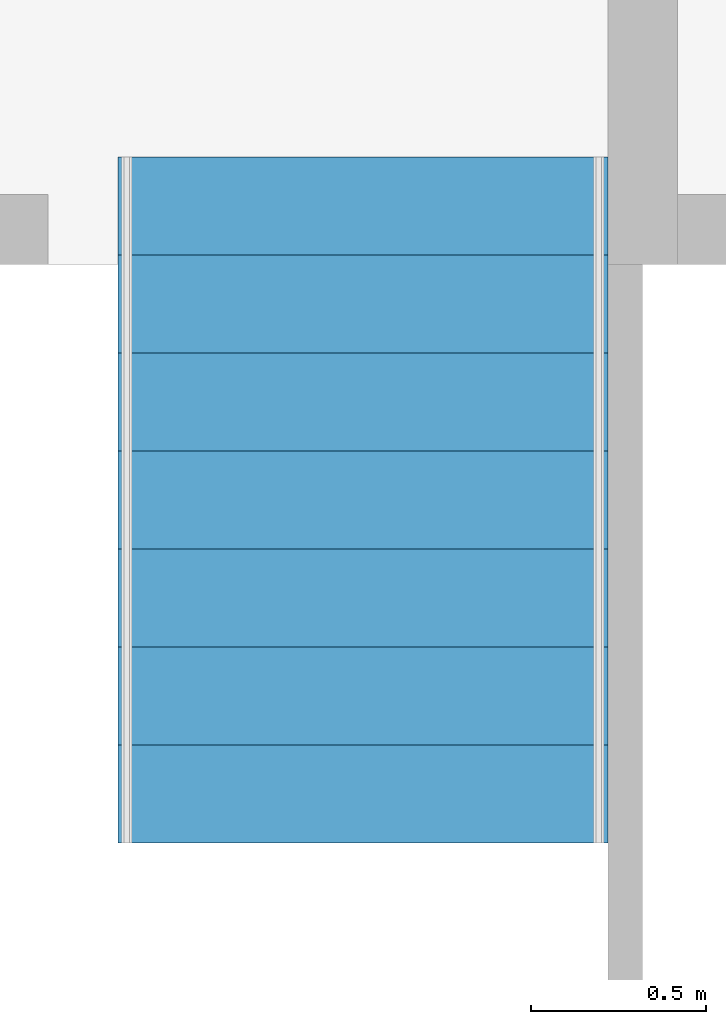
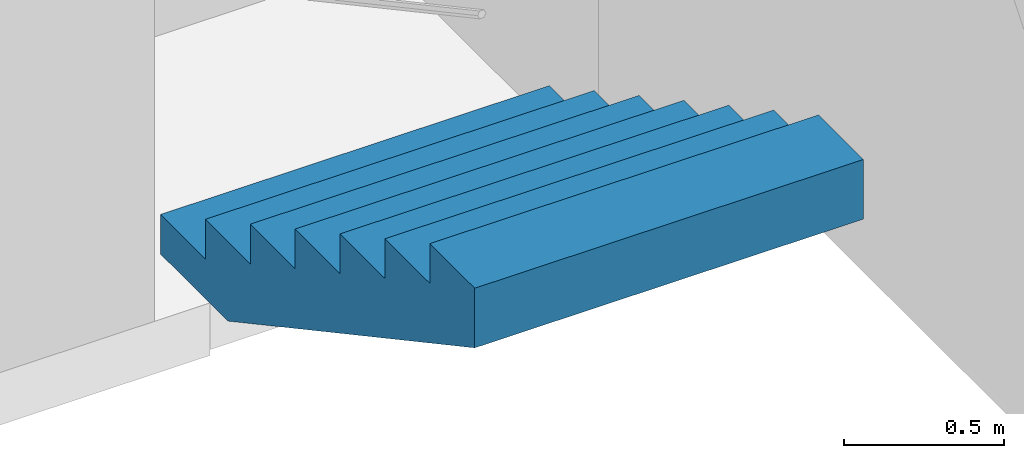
# One storey, part 2 of 3: 1 stair flight, 1 element without a shape of its own.
"""IFC2X3 building model written with IfcOpenShell, lengths in metres."""

from ifc_helpers import new_model, entity, si_unit, converted_unit, derived_unit, direction, frame, origin, place, context, subcontext, project, spatial, faceted_brep, material, type_object, element, aggregate, save


model = new_model("IFC2X3")

# Units and contexts
model_context = context("Model", 3, precision=1e-05, world=origin(), true_north=direction((6.12303176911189e-17, 1.0)))
body_context = subcontext(model_context, "Body", "Model", "MODEL_VIEW")
ifc_project = project(units=[si_unit("LENGTHUNIT", "METRE"), si_unit("AREAUNIT", "SQUARE_METRE"), si_unit("VOLUMEUNIT", "CUBIC_METRE"), converted_unit("PLANEANGLEUNIT", "DEGREE", entity("IfcRatioMeasure", 0.0174532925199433), si_unit("PLANEANGLEUNIT", "RADIAN"), dimensions=[0, 0, 0, 0, 0, 0, 0]), si_unit("MASSUNIT", "GRAM", prefix="KILO"), derived_unit("MASSDENSITYUNIT", [(si_unit("MASSUNIT", "GRAM", prefix="KILO"), 1), (si_unit("LENGTHUNIT", "METRE"), -3)]), derived_unit("MOMENTOFINERTIAUNIT", [(si_unit("LENGTHUNIT", "METRE"), 4)]), si_unit("TIMEUNIT", "SECOND"), si_unit("FREQUENCYUNIT", "HERTZ"), si_unit("THERMODYNAMICTEMPERATUREUNIT", "DEGREE_CELSIUS"), derived_unit("THERMALTRANSMITTANCEUNIT", [(si_unit("MASSUNIT", "GRAM", prefix="KILO"), 1), (si_unit("THERMODYNAMICTEMPERATUREUNIT", "KELVIN"), -1), (si_unit("TIMEUNIT", "SECOND"), -3)]), derived_unit("VOLUMETRICFLOWRATEUNIT", [(si_unit("LENGTHUNIT", "METRE"), 3), (si_unit("TIMEUNIT", "SECOND"), -1)]), si_unit("ELECTRICCURRENTUNIT", "AMPERE"), si_unit("ELECTRICVOLTAGEUNIT", "VOLT"), si_unit("POWERUNIT", "WATT"), si_unit("FORCEUNIT", "NEWTON", prefix="KILO"), si_unit("ILLUMINANCEUNIT", "LUX"), si_unit("LUMINOUSFLUXUNIT", "LUMEN"), si_unit("LUMINOUSINTENSITYUNIT", "CANDELA"), derived_unit("USERDEFINED", [(si_unit("MASSUNIT", "GRAM", prefix="KILO"), -1), (si_unit("LENGTHUNIT", "METRE"), -2), (si_unit("TIMEUNIT", "SECOND"), 3), (si_unit("LUMINOUSFLUXUNIT", "LUMEN"), 1)]), derived_unit("LINEARVELOCITYUNIT", [(si_unit("LENGTHUNIT", "METRE"), 1), (si_unit("TIMEUNIT", "SECOND"), -1)]), si_unit("PRESSUREUNIT", "PASCAL"), derived_unit("USERDEFINED", [(si_unit("LENGTHUNIT", "METRE"), -2), (si_unit("MASSUNIT", "GRAM", prefix="KILO"), 1), (si_unit("TIMEUNIT", "SECOND"), -2)]), derived_unit("LINEARFORCEUNIT", [(si_unit("MASSUNIT", "GRAM", prefix="KILO"), 1), (si_unit("LENGTHUNIT", "METRE"), 1), (si_unit("TIMEUNIT", "SECOND"), -2), (si_unit("LENGTHUNIT", "METRE"), -1)]), derived_unit("PLANARFORCEUNIT", [(si_unit("MASSUNIT", "GRAM", prefix="KILO"), 1), (si_unit("LENGTHUNIT", "METRE"), 1), (si_unit("TIMEUNIT", "SECOND"), -2), (si_unit("LENGTHUNIT", "METRE"), -2)])], contexts=[model_context])

# Site, building, storey
site_placement = place(None, origin())
site = spatial("IfcSite", under=ifc_project, at=site_placement, Name="Default", CompositionType="ELEMENT")
building_placement = place(site_placement, origin())
building = spatial("IfcBuilding", under=site, at=building_placement, CompositionType="ELEMENT")
storey_placement = place(building_placement, frame((0.0, 0.0, -0.31669172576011)))
storey = spatial("IfcBuildingStorey", under=building, at=storey_placement, Name="SOUS SOL", CompositionType="ELEMENT", Elevation=-0.31669172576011)

# Stair, stair flight
stair_placement = place(storey_placement, origin())
stair = element("IfcStair", 1, at=stair_placement, inside=storey, Name="Escalier coulé sur place:Escalier", ObjectType="Escalier coulé sur place:Escalier monobloc", ShapeType="STRAIGHT_RUN_STAIR")
ifc_material = material(Name="Béton, coulé sur place")
stair_flight_type = type_object("IfcStairFlightType", Name="Volée monobloc:Profondeur de structure 200 mm", PredefinedType="NOTDEFINED")
stair_flight_placement = place(stair_placement, frame((-18.7440938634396, 14.0661770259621, 0.0)))
stair_flight = element("IfcStairFlight", 2, at=stair_flight_placement, type_object=stair_flight_type, material=ifc_material, Name="Escalier coulé sur place:Escalier:973949 Run 1", ObjectType="Volée monobloc:Profondeur de structure 200 mm", NumberOfRiser=8, NumberOfTreads=7, RiserHeight=0.496227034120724, TreadLength=0.918635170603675, context=body_context, shape_type="Brep", body=[
    faceted_brep([(1.40000000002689, 1.67999999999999, 0.151250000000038), (1.40000000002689, 1.95999999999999, 0.151250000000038), (0.0, 1.95999999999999, 0.151250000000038), (0.0, 1.67999999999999, 0.151250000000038), (1.40000000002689, 1.67999999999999, 0.0), (1.40000000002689, 1.95999999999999, 0.0), (0.0, 1.95999999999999, 0.0), (0.0, 1.67999999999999, 0.0), (1.40000000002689, 1.39999999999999, 0.302500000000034), (1.40000000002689, 1.67999999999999, 0.302500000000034), (0.0, 1.67999999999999, 0.302500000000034), (0.0, 1.39999999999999, 0.302500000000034), (1.40000000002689, 1.39999999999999, 0.0751858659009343), (1.40000000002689, 1.53918705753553, 0.0), (0.0, 1.53918705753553, 0.0), (0.0, 1.39999999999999, 0.0751858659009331), (1.40000000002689, 1.12, 0.453750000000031), (1.40000000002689, 1.39999999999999, 0.453750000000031), (0.0, 1.39999999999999, 0.453750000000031), (0.0, 1.11999999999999, 0.453750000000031), (1.40000000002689, 1.12, 0.226435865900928), (0.0, 1.12, 0.226435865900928), (1.40000000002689, 0.839999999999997, 0.377685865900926), (1.40000000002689, 0.559999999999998, 0.528935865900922), (1.40000000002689, 0.280000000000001, 0.680185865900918), (1.40000000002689, 0.0, 0.831435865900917), (0.0, 0.0, 0.831435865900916), (0.0, 0.280000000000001, 0.680185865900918), (0.0, 0.559999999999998, 0.528935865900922), (0.0, 0.839999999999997, 0.377685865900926), (1.40000000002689, 0.839999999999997, 0.605000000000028), (1.40000000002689, 1.11999999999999, 0.605000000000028), (0.0, 1.11999999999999, 0.605000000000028), (0.0, 0.839999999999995, 0.605000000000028), (1.40000000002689, 0.559999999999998, 0.756250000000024), (1.40000000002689, 0.839999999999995, 0.756250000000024), (0.0, 0.839999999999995, 0.756250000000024), (0.0, 0.559999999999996, 0.756250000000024), (1.40000000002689, 0.279999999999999, 0.907500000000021), (1.40000000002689, 0.559999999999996, 0.907500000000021), (0.0, 0.559999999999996, 0.907500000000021), (0.0, 0.279999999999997, 0.907500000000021), (1.40000000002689, 0.0, 1.05875000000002), (1.40000000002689, 0.279999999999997, 1.05875000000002), (0.0, 0.279999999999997, 1.05875000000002), (0.0, 0.0, 1.05875000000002), (1.40000000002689, 0.0, 1.01000000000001), (0.0, 0.0, 1.01000000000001)], [[[0, 1, 2, 3]], [[1, 0, 4, 5]], [[2, 1, 5, 6]], [[3, 2, 6, 7]], [[8, 9, 10, 11]], [[4, 0, 9, 8, 12, 13]], [[0, 3, 10, 9]], [[3, 7, 14, 15, 11, 10]], [[16, 17, 18, 19]], [[17, 16, 20, 12, 8]], [[8, 11, 18, 17]], [[19, 18, 11, 15, 21]], [[5, 4, 13, 14, 7, 6]], [[14, 13, 12, 20, 22, 23, 24, 25, 26, 27, 28, 29, 21, 15]], [[30, 31, 32, 33]], [[31, 30, 22, 20, 16]], [[16, 19, 32, 31]], [[33, 32, 19, 21, 29]], [[34, 35, 36, 37]], [[35, 34, 23, 22, 30]], [[30, 33, 36, 35]], [[37, 36, 33, 29, 28]], [[38, 39, 40, 41]], [[39, 38, 24, 23, 34]], [[34, 37, 40, 39]], [[41, 40, 37, 28, 27]], [[42, 43, 44, 45]], [[43, 42, 46, 25, 24, 38]], [[38, 41, 44, 43]], [[45, 44, 41, 27, 26, 47]], [[42, 45, 47, 26, 25, 46]]]),
])
aggregate(stair, [stair_flight])

save(model, "model.ifc")
